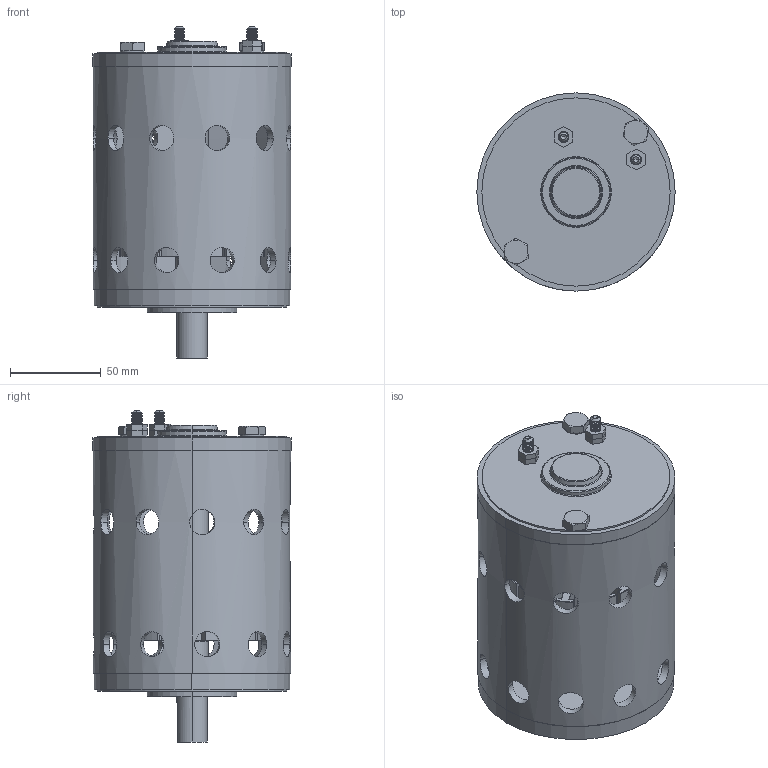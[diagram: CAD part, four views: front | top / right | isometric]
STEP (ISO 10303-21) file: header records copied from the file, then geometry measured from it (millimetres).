
FILE_DESCRIPTION (( 'STEP AP214' ), '1' );
FILE_NAME ('M1080.STEP', '2017-06-12T08:14:07', ( 'Sky123.Org' ), ( 'Sky123.Org' ), 'SwSTEP 2.0', 'SolidWorks 2015', '' );
FILE_SCHEMA (( 'AUTOMOTIVE_DESIGN' ));
Length unit declared in the file: millimetre
Products named in the file (9): 1084 美轉子 SHORT; 1084整流; 1084-MODO short; socket set screw cup point_din_DIN 916 - M6 x 8-S; hex thin nut gradeb_din_Hexagon Nut ISO 4036 - M6 - N; hex screw gradeab fine_din_ISO 8676 - M8x1 x 16-N; socket set screw cup point_din_DIN 916 - M8 x 8-S; M1080-CAT; M1080
Assembly tree (14 placements, depth 3):
  M1080
    M1080-CAT
    socket set screw cup point_din_DIN 916 - M8 x 8-S  x2
    hex screw gradeab fine_din_ISO 8676 - M8x1 x 16-N  x2
    hex thin nut gradeb_din_Hexagon Nut ISO 4036 - M6 - N  x4
    socket set screw cup point_din_DIN 916 - M6 x 8-S  x2
    1084 美轉子 SHORT
      1084-MODO short
      1084整流
Bounding box: 109.5 x 109.5 x 183.4 mm (x, y, z)
Volume: 564616.5 mm3; surface area: 212770.7 mm2
Topology: 14 solids, 14 shells, 1239 faces, 3040 edges, 1856 vertices
Faces by surface type: cylinder 498, plane 298, torus 229, cone 174, bspline 40
Entity records: 40557 total; most frequent: CARTESIAN_POINT 12223, ORIENTED_EDGE 5176, DIRECTION 4996, EDGE_CURVE 2588, AXIS2_PLACEMENT_3D 1927, VERTEX_POINT 1582, EDGE_LOOP 1154, VECTOR 1142
